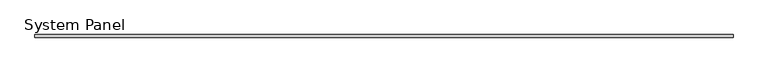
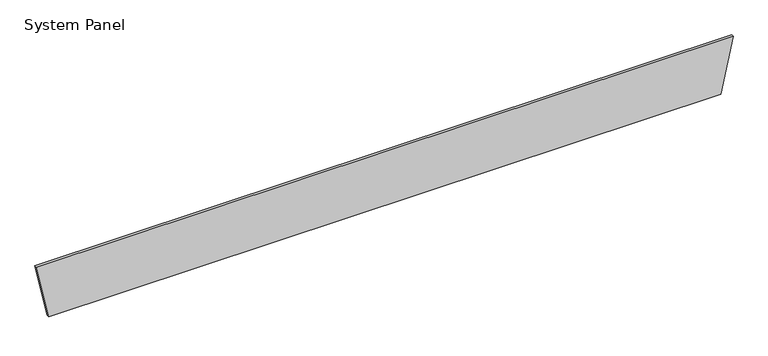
"""IFC4 building model written with IfcOpenShell, lengths in millimetres: plate geometry, System Panel : MetecnoPanel_50mm_Plain_Surfmist."""

from ifc_helpers import new_model, si_unit, frame, origin, place, context, project, spatial, polyline, outline, extrude, source, transform, mapped, element, save


def system_panel_31a21a41(model_context):
    return source(origin(), model_context, "Body", "SweptSolid", [
        extrude(outline(polyline([(0.0, -6478.2647134), (0.0, 6478.2647134), (1100.0, 6717.3970701), (1100.0, -6717.3970701), (0.0, -6478.2647134)])), frame((0.0, -50.0, 0.0), z_axis=(0.0, 1.0, 0.0), x_axis=(0.0, 0.0, 1.0)), (0.0, 0.0, 1.0), 50.0),
    ])


if __name__ == "__main__":
    model = new_model("IFC4")
    model_context = context("Model", 3, world=origin())
    ifc_project = project(units=[si_unit("LENGTHUNIT", "METRE", prefix="MILLI")], contexts=[model_context])
    site = spatial("IfcSite", under=ifc_project)
    building = spatial("IfcBuilding", under=site)
    placement = place(None, origin())
    system_panel_shape = system_panel_31a21a41(model_context)
    element("IfcPlate", 1, ObjectType="System Panel : MetecnoPanel_50mm_Plain_Surfmist", at=placement, inside=building, context=model_context, shape_type="MappedRepresentation", body=[
        mapped(system_panel_shape, transform((0.0, 0.0, 0.0), x_axis=(1.0, 0.0, 0.0), y_axis=(0.0, 1.0, 0.0), z_axis=(0.0, 0.0, 1.0))),
    ])
    save(model, "model.ifc")
